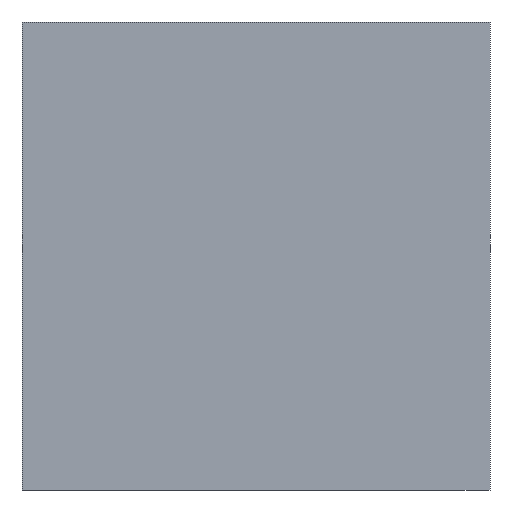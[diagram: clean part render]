
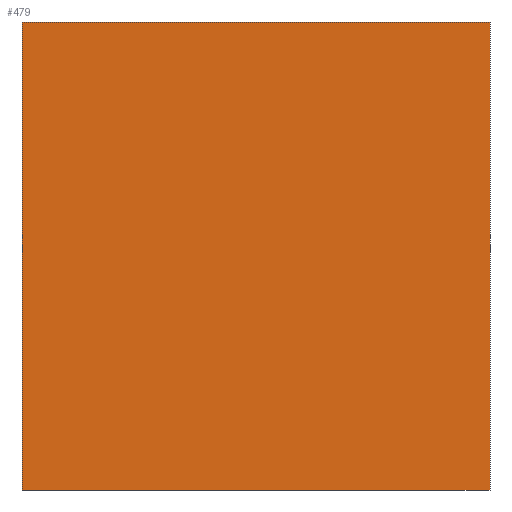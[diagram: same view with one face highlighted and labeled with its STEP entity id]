
A CAD part, front view. The second image highlights one B-rep face of the part: STEP entity #479.
In plain terms, the highlighted planar face has unit normal (0, -1, 0).
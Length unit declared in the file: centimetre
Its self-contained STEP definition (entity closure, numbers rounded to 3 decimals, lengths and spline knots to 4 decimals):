
#1 = CARTESIAN_POINT ( 'NONE',  ( 0., 0., 1000. ) ) ;
#12 = DIRECTION ( 'NONE',  ( 1., 0., 0. ) ) ;
#23 = DIRECTION ( 'NONE',  ( 0., 1., 0. ) ) ;
#42 = VERTEX_POINT ( 'NONE', #130 ) ;
#62 = PLANE ( 'NONE',  #178 ) ;
#67 = VERTEX_POINT ( 'NONE', #276 ) ;
#86 = EDGE_CURVE ( 'NONE', #466, #456, #280, .T. ) ;
#130 = CARTESIAN_POINT ( 'NONE',  ( 0., 0., 0. ) ) ;
#131 = VECTOR ( 'NONE', #213, 100. ) ;
#145 = DIRECTION ( 'NONE',  ( 1., 0., 0. ) ) ;
#160 = CARTESIAN_POINT ( 'NONE',  ( 1000., 0., 1000. ) ) ;
#174 = DIRECTION ( 'NONE',  ( 0., 0., 1. ) ) ;
#178 = AXIS2_PLACEMENT_3D ( 'NONE', #319, #23, #174 ) ;
#188 = ORIENTED_EDGE ( 'NONE', *, *, #86, .F. ) ;
#192 = LINE ( 'NONE', #344, #303 ) ;
#197 = EDGE_CURVE ( 'NONE', #42, #456, #192, .T. ) ;
#210 = CARTESIAN_POINT ( 'NONE',  ( 1000., 0., 1000. ) ) ;
#213 = DIRECTION ( 'NONE',  ( 0., 0., -1. ) ) ;
#219 = LINE ( 'NONE', #1, #468 ) ;
#276 = CARTESIAN_POINT ( 'NONE',  ( 0., 0., 1000. ) ) ;
#277 = EDGE_LOOP ( 'NONE', ( #295, #188, #372, #385 ) ) ;
#280 = LINE ( 'NONE', #160, #426 ) ;
#295 = ORIENTED_EDGE ( 'NONE', *, *, #197, .T. ) ;
#303 = VECTOR ( 'NONE', #12, 100. ) ;
#319 = CARTESIAN_POINT ( 'NONE',  ( 0., 0., 1000. ) ) ;
#328 = EDGE_CURVE ( 'NONE', #67, #42, #368, .T. ) ;
#344 = CARTESIAN_POINT ( 'NONE',  ( 0., 0., 0. ) ) ;
#351 = DIRECTION ( 'NONE',  ( 0., 0., -1. ) ) ;
#358 = FACE_OUTER_BOUND ( 'NONE', #277, .T. ) ;
#364 = EDGE_CURVE ( 'NONE', #67, #466, #219, .T. ) ;
#368 = LINE ( 'NONE', #478, #131 ) ;
#372 = ORIENTED_EDGE ( 'NONE', *, *, #364, .F. ) ;
#385 = ORIENTED_EDGE ( 'NONE', *, *, #328, .T. ) ;
#400 = CARTESIAN_POINT ( 'NONE',  ( 1000., 0., 0. ) ) ;
#426 = VECTOR ( 'NONE', #351, 100. ) ;
#456 = VERTEX_POINT ( 'NONE', #400 ) ;
#466 = VERTEX_POINT ( 'NONE', #210 ) ;
#468 = VECTOR ( 'NONE', #145, 100. ) ;
#478 = CARTESIAN_POINT ( 'NONE',  ( 0., 0., 1000. ) ) ;
#479 = ADVANCED_FACE ( 'NONE', ( #358 ), #62, .F. ) ;
